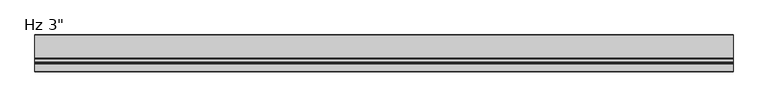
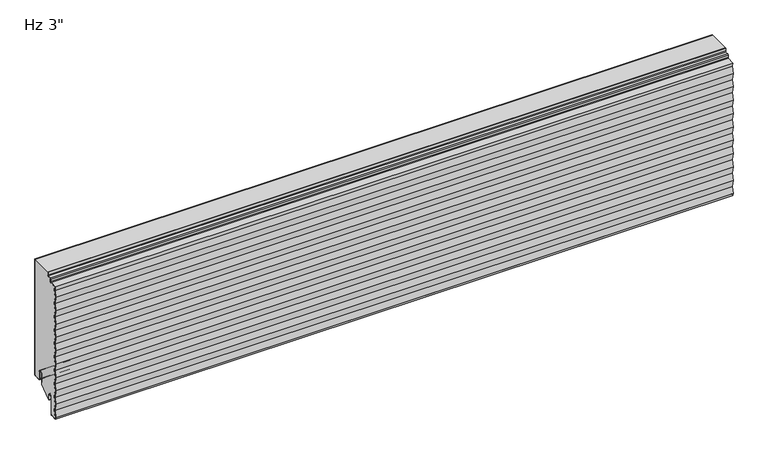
"""IFC4 building model written with IfcOpenShell, lengths in millimetres: plate geometry."""

from ifc_helpers import new_model, si_unit, point, frame, frame_2d, origin, place, context, project, spatial, polyline, circle_curve, trimmed, segment, composite_curve, outline, extrude, source, transform, mapped, element, save


def plate_4b458a6c(model_context):
    return source(origin(), model_context, "Body", "SweptSolid", [
        extrude(outline(composite_curve([segment(trimmed(circle_curve(frame_2d((-21.43125, 19.05)), 4.96875), [point((-16.4625, 19.05))], [point((-26.4, 19.05))], True, "CARTESIAN"), True, "CONTINUOUS"), segment(polyline([(-26.4, 19.05), (-26.4, -3.1323422), (-49.2157227, -23.01875), (-50.8, -23.01875), (-50.8, -13.5080174), (-51.59375, -13.5080174), (-51.3875, -11.9205174)]), True, "CONTINUOUS"), segment(trimmed(circle_curve(frame_2d((-56.35625, -11.9205174)), 4.96875), [point((-51.3875, -11.9205174))], [point((-61.325, -11.9205174))], True, "CARTESIAN"), True, "CONTINUOUS"), segment(polyline([(-61.325, -11.9205174), (-61.325, -50.1038221)]), True, "CONTINUOUS"), segment(trimmed(circle_curve(frame_2d((-62.70625, -50.1038221)), 1.38125), [point((-61.325, -50.1038221))], [point((-62.633961, -51.4831791))], False, "CARTESIAN"), True, "CONTINUOUS"), segment(polyline([(-62.633961, -51.4831791), (-73.746461, -52.0655606)]), True, "CONTINUOUS"), segment(trimmed(circle_curve(frame_2d((-73.81875, -50.6862035)), 1.38125), [point((-73.746461, -52.0655606))], [point((-75.1310452, -51.1171708))], False, "CARTESIAN"), True, "CONTINUOUS"), segment(polyline([(-75.1310452, -51.1171708), (-75.4936034, -48.8511825), (-73.0552034, -33.6111825), (-75.4936034, -18.3711825), (-73.0552034, -3.1311825), (-75.4936034, 12.1088175), (-73.0552034, 27.3488175), (-75.4936034, 42.5888175), (-73.0552034, 57.8288175), (-75.4936034, 73.0688175), (-73.0552034, 88.3088175), (-75.4936034, 103.5488175), (-73.0552034, 118.7888175), (-75.4936034, 134.0288175), (-73.0552034, 149.2688175), (-75.4936034, 164.5088175), (-73.0552034, 179.7488175), (-75.4936034, 194.9888175), (-73.0552034, 210.2288175), (-75.4936034, 225.4688175), (-73.0552034, 240.7088175), (-74.1475009, 247.5356771), (-60.1895807, 248.2671807)]), True, "CONTINUOUS"), segment(trimmed(circle_curve(frame_2d((-60.325, 250.8511347)), 2.5875), [point((-60.1895807, 248.2671807))], [point((-57.7375, 250.8511347))], True, "CARTESIAN"), True, "CONTINUOUS"), segment(polyline([(-57.7375, 250.8511347), (-57.7375, 255.4824411)]), True, "CONTINUOUS"), segment(trimmed(circle_curve(frame_2d((-56.35625, 255.4824411)), 1.38125), [point((-57.7375, 255.4824411))], [point((-56.428539, 256.8617981))], False, "CARTESIAN"), True, "CONTINUOUS"), segment(polyline([(-56.428539, 256.8617981), (-50.6645807, 257.1638744)]), True, "CONTINUOUS"), segment(trimmed(circle_curve(frame_2d((-50.8, 259.7478283)), 2.5875), [point((-50.6645807, 257.1638744))], [point((-48.2125, 259.7478283))], True, "CARTESIAN"), True, "CONTINUOUS"), segment(polyline([(-48.2125, 259.7478283), (-48.2125, 266.4), (-1.0, 266.4), (-1.0, 3.175)]), True, "CONTINUOUS"), segment(trimmed(circle_curve(frame_2d((-2.38125, 3.175)), 1.38125), [point((-1.0, 3.175))], [point((-2.38125, 1.79375))], False, "CARTESIAN"), True, "CONTINUOUS"), segment(polyline([(-2.38125, 1.79375), (-15.08125, 1.79375)]), True, "CONTINUOUS"), segment(trimmed(circle_curve(frame_2d((-15.08125, 3.175)), 1.38125), [point((-15.08125, 1.79375))], [point((-16.4625, 3.175))], False, "CARTESIAN"), True, "CONTINUOUS"), segment(polyline([(-16.4625, 3.175), (-16.4625, 19.05)]), True, "CONTINUOUS")], self_intersect=False)), frame((-730.0, 0.0, 0.0), z_axis=(1.0, 0.0, 0.0), x_axis=(0.0, 1.0, 0.0)), (0.0, 0.0, 1.0), 1460.0),
        extrude(outline(composite_curve([segment(polyline([(-25.4, 0.79375), (-26.4, 0.79375), (-26.4, 19.05)]), True, "CONTINUOUS"), segment(trimmed(circle_curve(frame_2d((-21.43125, 19.05)), 4.96875), [point((-26.4, 19.05))], [point((-16.4625, 19.05))], False, "CARTESIAN"), True, "CONTINUOUS"), segment(polyline([(-16.4625, 19.05), (-16.4625, 3.175)]), True, "CONTINUOUS"), segment(trimmed(circle_curve(frame_2d((-15.08125, 3.175)), 1.38125), [point((-16.4625, 3.175))], [point((-15.08125, 1.79375))], True, "CARTESIAN"), True, "CONTINUOUS"), segment(polyline([(-15.08125, 1.79375), (-2.38125, 1.79375)]), True, "CONTINUOUS"), segment(trimmed(circle_curve(frame_2d((-2.38125, 3.175)), 1.38125), [point((-2.38125, 1.79375))], [point((-1.0, 3.175))], True, "CARTESIAN"), True, "CONTINUOUS"), segment(polyline([(-1.0, 3.175), (-1.0, 266.4), (0.0, 266.4), (0.0, 3.175)]), True, "CONTINUOUS"), segment(trimmed(circle_curve(frame_2d((-2.38125, 3.175)), 2.38125), [point((0.0, 3.175))], [point((-2.38125, 0.79375))], False, "CARTESIAN"), True, "CONTINUOUS"), segment(polyline([(-2.38125, 0.79375), (-15.08125, 0.79375)]), True, "CONTINUOUS"), segment(trimmed(circle_curve(frame_2d((-15.08125, 3.175)), 2.38125), [point((-15.08125, 0.79375))], [point((-17.4625, 3.175))], False, "CARTESIAN"), True, "CONTINUOUS"), segment(polyline([(-17.4625, 3.175), (-17.4625, 19.05)]), True, "CONTINUOUS"), segment(trimmed(circle_curve(frame_2d((-21.43125, 19.05)), 3.96875), [point((-17.4625, 19.05))], [point((-25.4, 19.05))], True, "CARTESIAN"), True, "CONTINUOUS"), segment(polyline([(-25.4, 19.05), (-25.4, 0.79375)]), True, "CONTINUOUS")], self_intersect=False)), frame((-730.0, 0.0, 0.0), z_axis=(1.0, 0.0, 0.0), x_axis=(0.0, 1.0, 0.0)), (0.0, 0.0, 1.0), 1460.0),
        extrude(outline(composite_curve([segment(trimmed(circle_curve(frame_2d((-51.59375, -23.2314549)), 0.79375), [point((-50.8, -23.2314549))], [point((-52.3875, -23.2314549))], False, "CARTESIAN"), True, "CONTINUOUS"), segment(polyline([(-52.3875, -23.2314549), (-52.3875, -11.9205174)]), True, "CONTINUOUS"), segment(trimmed(circle_curve(frame_2d((-56.35625, -11.9205174)), 3.96875), [point((-52.3875, -11.9205174))], [point((-60.325, -11.9205174))], True, "CARTESIAN"), True, "CONTINUOUS"), segment(polyline([(-60.325, -11.9205174), (-60.325, -50.1038221)]), True, "CONTINUOUS"), segment(trimmed(circle_curve(frame_2d((-62.70625, -50.1038221)), 2.38125), [point((-60.325, -50.1038221))], [point((-62.581625, -52.4818086))], False, "CARTESIAN"), True, "CONTINUOUS"), segment(polyline([(-62.581625, -52.4818086), (-76.7543553, -53.22457), (-77.4509395, -48.8709186), (-75.0125395, -33.6309186), (-77.4509395, -18.3909186), (-75.0125395, -3.1509186), (-77.4509395, 12.0890814), (-75.0125395, 27.3290814), (-77.4509395, 42.5690814), (-75.0125395, 57.8090814), (-77.4509395, 73.0490814), (-75.0125395, 88.2890814), (-77.4509395, 103.5290814), (-75.0125395, 118.7690814), (-77.4509395, 134.0090814), (-75.0125395, 149.2490814), (-77.4509395, 164.4890814), (-75.0125395, 179.7290814), (-77.4509395, 194.9690814), (-75.0125395, 210.2090814), (-77.4347341, 225.3477976), (-75.0125395, 240.4865139), (-76.2827208, 248.4251473), (-60.2419167, 249.2658103)]), True, "CONTINUOUS"), segment(trimmed(circle_curve(frame_2d((-60.325, 250.8511347)), 1.5875), [point((-60.2419167, 249.2658103))], [point((-58.7375, 250.8511347))], True, "CARTESIAN"), True, "CONTINUOUS"), segment(polyline([(-58.7375, 250.8511347), (-58.7375, 255.4824411)]), True, "CONTINUOUS"), segment(trimmed(circle_curve(frame_2d((-56.35625, 255.4824411)), 2.38125), [point((-58.7375, 255.4824411))], [point((-56.480875, 257.8604276))], False, "CARTESIAN"), True, "CONTINUOUS"), segment(polyline([(-56.480875, 257.8604276), (-50.7169167, 258.1625039)]), True, "CONTINUOUS"), segment(trimmed(circle_curve(frame_2d((-50.8, 259.7478283)), 1.5875), [point((-50.7169167, 258.1625039))], [point((-49.2125, 259.7478283))], True, "CARTESIAN"), True, "CONTINUOUS"), segment(polyline([(-49.2125, 259.7478283), (-49.2125, 266.4), (-48.2125, 266.4), (-48.2125, 259.7478283)]), True, "CONTINUOUS"), segment(trimmed(circle_curve(frame_2d((-50.8, 259.7478283)), 2.5875), [point((-48.2125, 259.7478283))], [point((-50.6645807, 257.1638744))], False, "CARTESIAN"), True, "CONTINUOUS"), segment(polyline([(-50.6645807, 257.1638744), (-56.428539, 256.8617981)]), True, "CONTINUOUS"), segment(trimmed(circle_curve(frame_2d((-56.35625, 255.4824411)), 1.38125), [point((-56.428539, 256.8617981))], [point((-57.7375, 255.4824411))], True, "CARTESIAN"), True, "CONTINUOUS"), segment(polyline([(-57.7375, 255.4824411), (-57.7375, 250.8511347)]), True, "CONTINUOUS"), segment(trimmed(circle_curve(frame_2d((-60.325, 250.8511347)), 2.5875), [point((-57.7375, 250.8511347))], [point((-60.1895807, 248.2671807))], False, "CARTESIAN"), True, "CONTINUOUS"), segment(polyline([(-60.1895807, 248.2671807), (-75.1195357, 247.4847349), (-73.9998204, 240.4865139), (-76.422015, 225.3477976), (-73.9998204, 210.2090814), (-76.4382204, 194.9690814), (-73.9998204, 179.7290814), (-76.4382204, 164.4890814), (-73.9998204, 149.2490814), (-76.4382204, 134.0090814), (-73.9998204, 118.7690814), (-76.4382204, 103.5290814), (-73.9998204, 88.2890814), (-76.4382204, 73.0490814), (-73.9998204, 57.8090814), (-76.4382204, 42.5690814), (-73.9998204, 27.3290814), (-76.4382204, 12.0890814), (-73.9998204, -3.1509186), (-76.4382204, -18.3909186), (-73.9998204, -33.6309186), (-76.4382204, -48.8709186), (-75.9089447, -52.1788915), (-62.633961, -51.4831791)]), True, "CONTINUOUS"), segment(trimmed(circle_curve(frame_2d((-62.70625, -50.1038221)), 1.38125), [point((-62.633961, -51.4831791))], [point((-61.325, -50.1038221))], True, "CARTESIAN"), True, "CONTINUOUS"), segment(polyline([(-61.325, -50.1038221), (-61.325, -11.9205174)]), True, "CONTINUOUS"), segment(trimmed(circle_curve(frame_2d((-56.35625, -11.9205174)), 4.96875), [point((-61.325, -11.9205174))], [point((-51.3875, -11.9205174))], False, "CARTESIAN"), True, "CONTINUOUS"), segment(polyline([(-51.3875, -11.9205174), (-51.59375, -13.5080174), (-50.8, -13.5080174), (-50.8, -23.2314549)]), True, "CONTINUOUS")], self_intersect=False)), frame((-730.0, 0.0, 0.0), z_axis=(1.0, 0.0, 0.0), x_axis=(0.0, 1.0, 0.0)), (0.0, 0.0, 1.0), 1460.0),
    ])


if __name__ == "__main__":
    model = new_model("IFC4")
    model_context = context("Model", 3, world=origin())
    ifc_project = project(units=[si_unit("LENGTHUNIT", "METRE", prefix="MILLI")], contexts=[model_context])
    site = spatial("IfcSite", under=ifc_project)
    building = spatial("IfcBuilding", under=site)
    placement = place(None, origin())
    plate_shape = plate_4b458a6c(model_context)
    element("IfcPlate", 1, ObjectType="KIP-12-DWTR-R19-CP-Hz-S : Hz 3\"", at=placement, inside=building, context=model_context, shape_type="MappedRepresentation", body=[
        mapped(plate_shape, transform((0.0, 0.0, 0.0), x_axis=(1.0, 0.0, 0.0), y_axis=(0.0, 1.0, 0.0), z_axis=(0.0, 0.0, 1.0))),
    ])
    save(model, "model.ifc")
